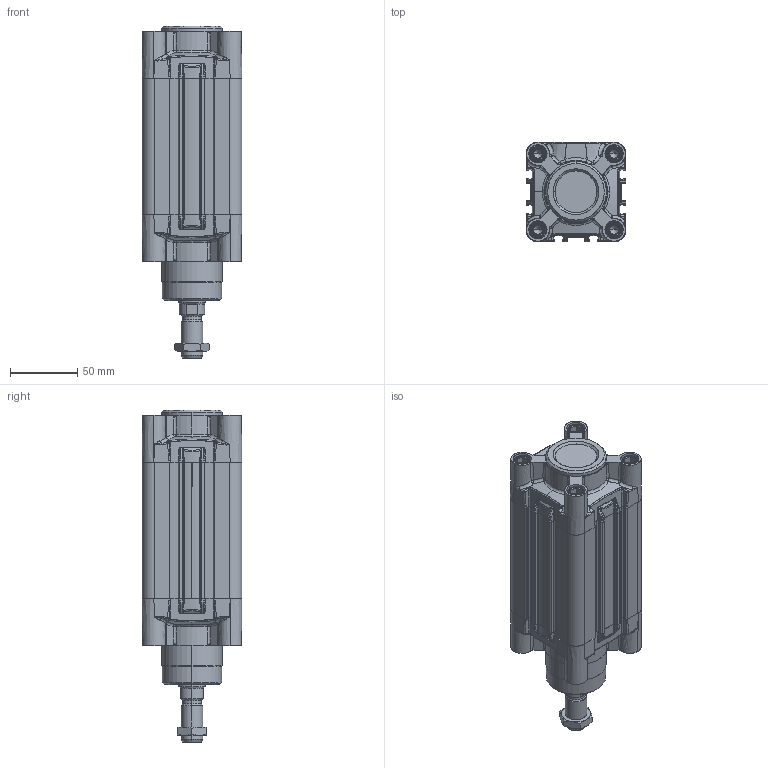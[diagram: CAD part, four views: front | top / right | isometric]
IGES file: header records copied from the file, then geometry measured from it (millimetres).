
Start section: SolidWorks IGES file using analytic representation for surfaces
Global section: file name: K:\Disegni Esecutivi\Cilindri\2_DISEGNI_cilindri_in_produzione\15_IGES cilindri per sito INTERNET-AIGNEP\iges ISO 15552\iges cilindro iso 15552\XB\XB063\XB0630025A.igs; native system: SolidWorks 2011; preprocessor: SolidWorks 2011; author: cad01; date: 110415.135530; units: millimetre
Bounding box: 73.98 x 73.98 x 246.5 mm (x, y, z)
Surface area: 162310.4 mm2 (no closed solid volume)
Topology: 0 solids, 0 shells, 1351 faces, 15117 edges, 15089 vertices
Faces by surface type: bspline 710, revolution 641
